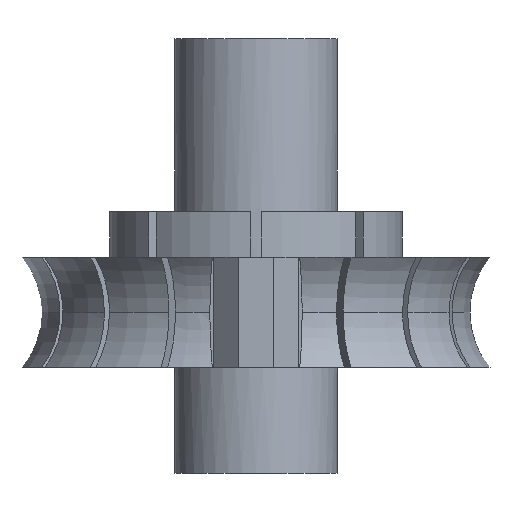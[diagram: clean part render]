
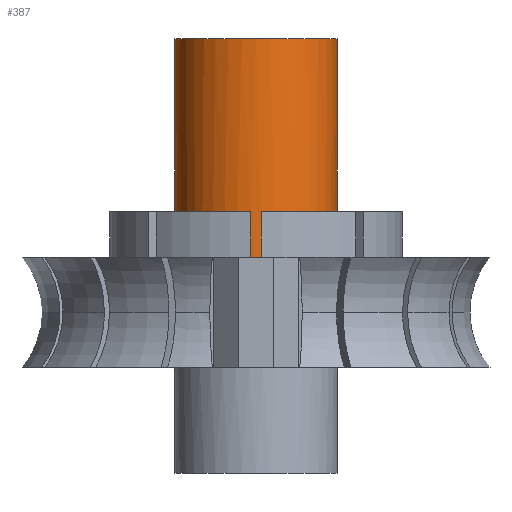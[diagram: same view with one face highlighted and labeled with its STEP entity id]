
A CAD part, front view. The second image highlights one B-rep face of the part: STEP entity #387.
In plain terms, the highlighted cylindrical face has radius 23 mm (diameter 46 mm), a partial arc.
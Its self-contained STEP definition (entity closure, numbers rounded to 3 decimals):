
#387=ADVANCED_FACE('',(#800),#801,.T.);
#800=FACE_OUTER_BOUND('',#1235,.T.);
#801=CYLINDRICAL_SURFACE('',#1236,23.);
#1235=EDGE_LOOP('',(#2443,#2444,#2445,#2446,#2447,#2448,#2449,#2450,#2451,#2452,#2453,#2454,#2455,#2456,#2457,#2458,#2459,#2460,#2461,#2462));
#1236=AXIS2_PLACEMENT_3D('',#2463,#2464,#2465);
#2443=ORIENTED_EDGE('',*,*,#3220,.F.);
#2444=ORIENTED_EDGE('',*,*,#3242,.T.);
#2445=ORIENTED_EDGE('',*,*,#3227,.F.);
#2446=ORIENTED_EDGE('',*,*,#2821,.T.);
#2447=ORIENTED_EDGE('',*,*,#3052,.T.);
#2448=ORIENTED_EDGE('',*,*,#2799,.F.);
#2449=ORIENTED_EDGE('',*,*,#3007,.T.);
#2450=ORIENTED_EDGE('',*,*,#3243,.T.);
#2451=ORIENTED_EDGE('',*,*,#3244,.T.);
#2452=ORIENTED_EDGE('',*,*,#3232,.F.);
#2453=ORIENTED_EDGE('',*,*,#3001,.T.);
#2454=ORIENTED_EDGE('',*,*,#2732,.T.);
#2455=ORIENTED_EDGE('',*,*,#2745,.T.);
#2456=ORIENTED_EDGE('',*,*,#3245,.F.);
#2457=ORIENTED_EDGE('',*,*,#3027,.T.);
#2458=ORIENTED_EDGE('',*,*,#2953,.T.);
#2459=ORIENTED_EDGE('',*,*,#3246,.T.);
#2460=ORIENTED_EDGE('',*,*,#2846,.F.);
#2461=ORIENTED_EDGE('',*,*,#3247,.T.);
#2462=ORIENTED_EDGE('',*,*,#3248,.T.);
#2463=CARTESIAN_POINT('',(0.0,0.,81.6));
#2464=DIRECTION('',(0.0,0.,-1.0));
#2465=DIRECTION('',(1.0,0.0,0.0));
#2732=EDGE_CURVE('',#3289,#3290,#3291,.T.);
#2745=EDGE_CURVE('',#3290,#3311,#3313,.T.);
#2799=EDGE_CURVE('',#3406,#3401,#3408,.T.);
#2821=EDGE_CURVE('',#3440,#3446,#3448,.T.);
#2846=EDGE_CURVE('',#3487,#3489,#3490,.T.);
#2953=EDGE_CURVE('',#3665,#3666,#3667,.T.);
#3001=EDGE_CURVE('',#3745,#3289,#3746,.T.);
#3007=EDGE_CURVE('',#3406,#3753,#3755,.T.);
#3027=EDGE_CURVE('',#3784,#3665,#3785,.T.);
#3052=EDGE_CURVE('',#3446,#3401,#3817,.T.);
#3220=EDGE_CURVE('',#4046,#4047,#4048,.T.);
#3227=EDGE_CURVE('',#3440,#4055,#4056,.T.);
#3232=EDGE_CURVE('',#3745,#4059,#4063,.T.);
#3242=EDGE_CURVE('',#4046,#4055,#4073,.T.);
#3243=EDGE_CURVE('',#3753,#4074,#4075,.T.);
#3244=EDGE_CURVE('',#4074,#4059,#4076,.T.);
#3245=EDGE_CURVE('',#3784,#3311,#4077,.T.);
#3246=EDGE_CURVE('',#3666,#3489,#4078,.T.);
#3247=EDGE_CURVE('',#3487,#4079,#4080,.T.);
#3248=EDGE_CURVE('',#4079,#4047,#4081,.T.);
#3289=VERTEX_POINT('',#4122);
#3290=VERTEX_POINT('',#4123);
#3291=CIRCLE('',#4124,23.0);
#3311=VERTEX_POINT('',#4153);
#3313=LINE('',#4156,#4157);
#3401=VERTEX_POINT('',#4596);
#3406=VERTEX_POINT('',#4602);
#3408=CIRCLE('',#4605,23.);
#3440=VERTEX_POINT('',#4712);
#3446=VERTEX_POINT('',#4720);
#3448=CIRCLE('',#4723,23.0);
#3487=VERTEX_POINT('',#4902);
#3489=VERTEX_POINT('',#4905);
#3490=CIRCLE('',#4906,23.);
#3665=VERTEX_POINT('',#5727);
#3666=VERTEX_POINT('',#5728);
#3667=CIRCLE('',#5729,23.0);
#3745=VERTEX_POINT('',#6033);
#3746=LINE('',#6034,#6035);
#3753=VERTEX_POINT('',#6045);
#3755=LINE('',#6048,#6049);
#3784=VERTEX_POINT('',#6091);
#3785=LINE('',#6092,#6093);
#3817=LINE('',#6138,#6139);
#4046=VERTEX_POINT('',#6824);
#4047=VERTEX_POINT('',#6825);
#4048=LINE('',#6826,#6827);
#4055=VERTEX_POINT('',#6834);
#4056=LINE('',#6835,#6836);
#4059=VERTEX_POINT('',#6839);
#4063=CIRCLE('',#6844,23.);
#4073=CIRCLE('',#6921,23.);
#4074=VERTEX_POINT('',#6922);
#4075=CIRCLE('',#6923,23.0);
#4076=LINE('',#6924,#6925);
#4077=CIRCLE('',#6926,23.);
#4078=LINE('',#6927,#6928);
#4079=VERTEX_POINT('',#6929);
#4080=LINE('',#6930,#6931);
#4081=CIRCLE('',#6932,23.0);
#4122=CARTESIAN_POINT('',(-1.5,-22.951,44.2));
#4123=CARTESIAN_POINT('',(1.5,-22.951,44.2));
#4124=AXIS2_PLACEMENT_3D('',#7074,#7075,#7076);
#4153=CARTESIAN_POINT('',(1.5,-22.951,57.1));
#4156=CARTESIAN_POINT('',(1.5,-22.951,57.1));
#4157=VECTOR('',#7087,1.0);
#4596=CARTESIAN_POINT('',(-22.951,-1.5,57.1));
#4602=CARTESIAN_POINT('',(-17.289,-15.168,57.1));
#4605=AXIS2_PLACEMENT_3D('',#7141,#7142,#7143);
#4712=CARTESIAN_POINT('',(-23.,0.,44.2));
#4720=CARTESIAN_POINT('',(-22.951,-1.5,44.2));
#4723=AXIS2_PLACEMENT_3D('',#7165,#7166,#7167);
#4902=CARTESIAN_POINT('',(22.951,-1.5,57.1));
#4905=CARTESIAN_POINT('',(17.289,-15.168,57.1));
#4906=AXIS2_PLACEMENT_3D('',#7192,#7193,#7194);
#5727=CARTESIAN_POINT('',(15.168,-17.289,44.2));
#5728=CARTESIAN_POINT('',(17.289,-15.168,44.2));
#5729=AXIS2_PLACEMENT_3D('',#7286,#7287,#7288);
#6033=CARTESIAN_POINT('',(-1.5,-22.951,57.1));
#6034=CARTESIAN_POINT('',(-1.5,-22.951,57.1));
#6035=VECTOR('',#7326,1.0);
#6045=CARTESIAN_POINT('',(-17.289,-15.168,44.2));
#6048=CARTESIAN_POINT('',(-17.289,-15.168,57.1));
#6049=VECTOR('',#7331,1.0);
#6091=CARTESIAN_POINT('',(15.168,-17.289,57.1));
#6092=CARTESIAN_POINT('',(15.168,-17.289,57.1));
#6093=VECTOR('',#7348,1.0);
#6138=CARTESIAN_POINT('',(-22.951,-1.5,57.1));
#6139=VECTOR('',#7374,1.0);
#6824=CARTESIAN_POINT('',(23.,0.,106.1));
#6825=CARTESIAN_POINT('',(23.,0.,44.2));
#6826=CARTESIAN_POINT('',(23.,0.,81.6));
#6827=VECTOR('',#7552,1.0);
#6834=CARTESIAN_POINT('',(-23.,0.,106.1));
#6835=CARTESIAN_POINT('',(-23.,0.,81.6));
#6836=VECTOR('',#7571,1.0);
#6839=CARTESIAN_POINT('',(-15.168,-17.289,57.1));
#6844=AXIS2_PLACEMENT_3D('',#7579,#7580,#7581);
#6921=AXIS2_PLACEMENT_3D('',#7583,#7584,#7585);
#6922=CARTESIAN_POINT('',(-15.168,-17.289,44.2));
#6923=AXIS2_PLACEMENT_3D('',#7586,#7587,#7588);
#6924=CARTESIAN_POINT('',(-15.168,-17.289,57.1));
#6925=VECTOR('',#7589,1.0);
#6926=AXIS2_PLACEMENT_3D('',#7590,#7591,#7592);
#6927=CARTESIAN_POINT('',(17.289,-15.168,57.1));
#6928=VECTOR('',#7593,1.0);
#6929=CARTESIAN_POINT('',(22.951,-1.5,44.2));
#6930=CARTESIAN_POINT('',(22.951,-1.5,57.1));
#6931=VECTOR('',#7594,1.0);
#6932=AXIS2_PLACEMENT_3D('',#7595,#7596,#7597);
#7074=CARTESIAN_POINT('',(0.,0.,44.2));
#7075=DIRECTION('',(0.0,0.0,1.0));
#7076=DIRECTION('',(1.0,0.0,0.0));
#7087=DIRECTION('',(0.0,0.0,1.0));
#7141=CARTESIAN_POINT('',(0.0,0.,57.1));
#7142=DIRECTION('',(0.0,0.,-1.0));
#7143=DIRECTION('',(1.0,0.0,0.0));
#7165=CARTESIAN_POINT('',(0.,0.,44.2));
#7166=DIRECTION('',(0.0,0.0,1.0));
#7167=DIRECTION('',(1.0,0.0,0.0));
#7192=CARTESIAN_POINT('',(0.0,0.,57.1));
#7193=DIRECTION('',(0.0,0.,-1.0));
#7194=DIRECTION('',(1.0,0.0,0.0));
#7286=CARTESIAN_POINT('',(0.,0.,44.2));
#7287=DIRECTION('',(0.0,0.0,1.0));
#7288=DIRECTION('',(1.0,0.0,0.0));
#7326=DIRECTION('',(0.0,0.0,-1.0));
#7331=DIRECTION('',(0.0,0.0,-1.0));
#7348=DIRECTION('',(0.0,0.0,-1.0));
#7374=DIRECTION('',(0.0,0.0,1.0));
#7552=DIRECTION('',(0.0,0.,-1.0));
#7571=DIRECTION('',(-0.0,0.,1.0));
#7579=CARTESIAN_POINT('',(0.0,0.,57.1));
#7580=DIRECTION('',(0.0,0.,-1.0));
#7581=DIRECTION('',(1.0,0.0,0.0));
#7583=CARTESIAN_POINT('',(0.0,0.,106.1));
#7584=DIRECTION('',(0.0,0.,-1.0));
#7585=DIRECTION('',(1.0,0.0,0.0));
#7586=CARTESIAN_POINT('',(0.,0.,44.2));
#7587=DIRECTION('',(0.0,0.0,1.0));
#7588=DIRECTION('',(1.0,0.0,0.0));
#7589=DIRECTION('',(0.0,0.0,1.0));
#7590=CARTESIAN_POINT('',(0.0,0.,57.1));
#7591=DIRECTION('',(0.0,0.,-1.0));
#7592=DIRECTION('',(1.0,0.0,0.0));
#7593=DIRECTION('',(0.0,0.0,1.0));
#7594=DIRECTION('',(0.0,0.0,-1.0));
#7595=CARTESIAN_POINT('',(0.,0.,44.2));
#7596=DIRECTION('',(0.0,0.0,1.0));
#7597=DIRECTION('',(1.0,0.0,0.0));
